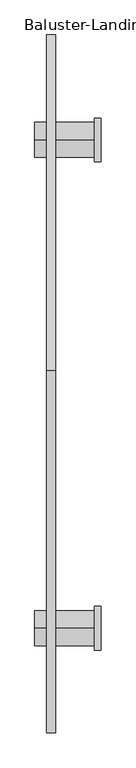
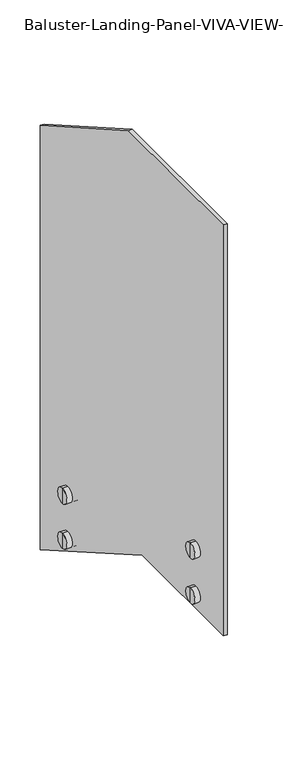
"""IFC4 building model written with IfcOpenShell, lengths in millimetres: railing geometry, Baluster-Landing-Panel-VIVA-VIEW-Lower : Standard_Glass Plate."""

from ifc_helpers import new_model, si_unit, point, frame, frame_2d, origin, place, context, project, spatial, polyline, circle_curve, trimmed, segment, composite_curve, outline, extrude, source, transform, mapped, element, save
from ifc_brep_helpers import plane_surface, cylinder_surface, advanced_brep


def baluster_landing_panel_viva_view_lower_standard_glass_plate_48608524(model_context):
    return source(origin(), model_context, "Body", "SolidModel", [
        advanced_brep(
        [(15.875, -147.3891207, -546.0690625), (15.875, -147.3891207, -520.6690625), (15.875, -147.3891207, -495.2690625), (33.3375, -147.3891207, -546.0690625), (33.3375, -147.3891207, -495.2690625), (33.3375, -147.3891207, -526.3840625), (33.3375, -147.3891207, -514.9540625), (46.0375, -147.3891207, -526.3840625), (46.0375, -147.3891207, -514.9540625), (46.0375, -147.3891207, -546.0690625), (46.0375, -147.3891207, -495.2690625), (103.187353, -147.3891207, -546.0690625), (103.187353, -147.3891207, -495.2690625), (103.187353, -147.3891207, -520.6690625)],
        [
            (0, 1),
            (1, 2),
            (2, 0, circle_curve(frame((15.875, -147.3891207, -520.6690625), z_axis=(-1.0, 0.0, 0.0), x_axis=(0.0, 0.0, 1.0)), 25.4)),
            (0, 2, circle_curve(frame((15.875, -147.3891207, -520.6690625), z_axis=(-1.0, 0.0, 0.0), x_axis=(0.0, 0.0, 1.0)), 25.4)),
            (3, 0),
            (2, 4),
            (4, 3, circle_curve(frame((33.3375, -147.3891207, -520.6690625), z_axis=(-1.0, 0.0, 0.0), x_axis=(0.0, 0.0, 1.0)), 25.4)),
            (3, 4, circle_curve(frame((33.3375, -147.3891207, -520.6690625), z_axis=(-1.0, 0.0, 0.0), x_axis=(0.0, 0.0, 1.0)), 25.4)),
            (5, 3),
            (4, 6),
            (6, 5, circle_curve(frame((33.3375, -147.3891207, -520.6690625), z_axis=(-1.0, 0.0, 0.0), x_axis=(0.0, 0.0, 1.0)), 5.715)),
            (5, 6, circle_curve(frame((33.3375, -147.3891207, -520.6690625), z_axis=(-1.0, 0.0, 0.0), x_axis=(0.0, 0.0, 1.0)), 5.715)),
            (7, 5),
            (6, 8),
            (8, 7, circle_curve(frame((46.0375, -147.3891207, -520.6690625), z_axis=(-1.0, 0.0, 0.0), x_axis=(0.0, 0.0, 1.0)), 5.715)),
            (7, 8, circle_curve(frame((46.0375, -147.3891207, -520.6690625), z_axis=(-1.0, 0.0, 0.0), x_axis=(0.0, 0.0, 1.0)), 5.715)),
            (9, 7),
            (8, 10),
            (10, 9, circle_curve(frame((46.0375, -147.3891207, -520.6690625), z_axis=(-1.0, 0.0, 0.0), x_axis=(0.0, 0.0, 1.0)), 25.4)),
            (9, 10, circle_curve(frame((46.0375, -147.3891207, -520.6690625), z_axis=(-1.0, 0.0, 0.0), x_axis=(0.0, 0.0, 1.0)), 25.4)),
            (11, 9),
            (10, 12),
            (12, 11, circle_curve(frame((103.187353, -147.3891207, -520.6690625), z_axis=(-1.0, 0.0, 0.0), x_axis=(0.0, 0.0, 1.0)), 25.4)),
            (11, 12, circle_curve(frame((103.187353, -147.3891207, -520.6690625), z_axis=(-1.0, 0.0, 0.0), x_axis=(0.0, 0.0, 1.0)), 25.4)),
            (13, 11),
            (12, 13),
        ],
        [
            plane_surface(frame((15.875, -147.3891207, -520.6690625), z_axis=(-1.0, 0.0, 0.0), x_axis=(0.0, 0.0, 1.0))),
            cylinder_surface(frame((-52.387647, -147.3891207, -520.6690625), z_axis=(1.0, 0.0, 0.0), x_axis=(0.0, 0.0, 1.0)), 25.4),
            plane_surface(frame((33.3375, -147.3891207, -520.6690625), z_axis=(1.0, 0.0, 0.0), x_axis=(0.0, 0.0, 1.0))),
            cylinder_surface(frame((-52.387647, -147.3891207, -520.6690625), z_axis=(1.0, 0.0, 0.0), x_axis=(0.0, 0.0, 1.0)), 5.715),
            plane_surface(frame((46.0375, -147.3891207, -520.6690625), z_axis=(-1.0, 0.0, 0.0), x_axis=(0.0, 0.0, 1.0))),
            plane_surface(frame((103.187353, -147.3891207, -520.6690625), z_axis=(1.0, 0.0, 0.0), x_axis=(0.0, 0.0, 1.0))),
        ],
        [
            (0, [[1, 2, 3]]),
            (0, [[-2, -1, 4]]),
            (1, [[5, -3, 6, 7]]),
            (1, [[-6, -4, -5, 8]]),
            (2, [[9, -7, 10, 11]]),
            (2, [[-10, -8, -9, 12]]),
            (3, [[13, -11, 14, 15]]),
            (3, [[-14, -12, -13, 16]]),
            (4, [[17, -15, 18, 19]]),
            (4, [[-18, -16, -17, 20]]),
            (1, [[21, -19, 22, 23]]),
            (1, [[-22, -20, -21, 24]]),
            (5, [[25, -23, 26]]),
            (5, [[-26, -24, -25]]),
        ],
    ),
        advanced_brep(
        [(33.3375, -147.3891207, -373.9840625), (33.3375, -147.3891207, -393.6690625), (33.3375, -147.3891207, -342.8690625), (33.3375, -147.3891207, -362.5540625), (46.0375, -147.3891207, -373.9840625), (46.0375, -147.3891207, -362.5540625), (46.0375, -147.3891207, -393.6690625), (46.0375, -147.3891207, -342.8690625), (103.187353, -147.3891207, -393.6690625), (103.187353, -147.3891207, -342.8690625), (103.187353, -147.3891207, -368.2690625), (15.875, -147.3891207, -393.6690625), (15.875, -147.3891207, -368.2690625), (15.875, -147.3891207, -342.8690625)],
        [
            (0, 1),
            (1, 2, circle_curve(frame((33.3375, -147.3891207, -368.2690625), z_axis=(1.0, 0.0, 0.0), x_axis=(0.0, 0.0, 1.0)), 25.4)),
            (2, 3),
            (3, 0, circle_curve(frame((33.3375, -147.3891207, -368.2690625), z_axis=(-1.0, 0.0, 0.0), x_axis=(0.0, 0.0, 1.0)), 5.715)),
            (2, 1, circle_curve(frame((33.3375, -147.3891207, -368.2690625), z_axis=(1.0, 0.0, 0.0), x_axis=(0.0, 0.0, 1.0)), 25.4)),
            (0, 3, circle_curve(frame((33.3375, -147.3891207, -368.2690625), z_axis=(-1.0, 0.0, 0.0), x_axis=(0.0, 0.0, 1.0)), 5.715)),
            (4, 0),
            (3, 5),
            (5, 4, circle_curve(frame((46.0375, -147.3891207, -368.2690625), z_axis=(-1.0, 0.0, 0.0), x_axis=(0.0, 0.0, 1.0)), 5.715)),
            (4, 5, circle_curve(frame((46.0375, -147.3891207, -368.2690625), z_axis=(-1.0, 0.0, 0.0), x_axis=(0.0, 0.0, 1.0)), 5.715)),
            (6, 4),
            (5, 7),
            (7, 6, circle_curve(frame((46.0375, -147.3891207, -368.2690625), z_axis=(-1.0, 0.0, 0.0), x_axis=(0.0, 0.0, 1.0)), 25.4)),
            (6, 7, circle_curve(frame((46.0375, -147.3891207, -368.2690625), z_axis=(-1.0, 0.0, 0.0), x_axis=(0.0, 0.0, 1.0)), 25.4)),
            (8, 6),
            (7, 9),
            (9, 8, circle_curve(frame((103.187353, -147.3891207, -368.2690625), z_axis=(-1.0, 0.0, 0.0), x_axis=(0.0, 0.0, 1.0)), 25.4)),
            (8, 9, circle_curve(frame((103.187353, -147.3891207, -368.2690625), z_axis=(-1.0, 0.0, 0.0), x_axis=(0.0, 0.0, 1.0)), 25.4)),
            (10, 8),
            (9, 10),
            (11, 12),
            (12, 13),
            (13, 11, circle_curve(frame((15.875, -147.3891207, -368.2690625), z_axis=(-1.0, 0.0, 0.0), x_axis=(0.0, 0.0, 1.0)), 25.4)),
            (11, 13, circle_curve(frame((15.875, -147.3891207, -368.2690625), z_axis=(-1.0, 0.0, 0.0), x_axis=(0.0, 0.0, 1.0)), 25.4)),
            (1, 11),
            (13, 2),
        ],
        [
            plane_surface(frame((33.3375, -147.3891207, -368.2690625), z_axis=(1.0, 0.0, 0.0), x_axis=(0.0, 0.0, 1.0))),
            cylinder_surface(frame((-52.387647, -147.3891207, -368.2690625), z_axis=(1.0, 0.0, 0.0), x_axis=(0.0, 0.0, 1.0)), 5.715),
            plane_surface(frame((46.0375, -147.3891207, -368.2690625), z_axis=(-1.0, 0.0, 0.0), x_axis=(0.0, 0.0, 1.0))),
            cylinder_surface(frame((-52.387647, -147.3891207, -368.2690625), z_axis=(1.0, 0.0, 0.0), x_axis=(0.0, 0.0, 1.0)), 25.4),
            plane_surface(frame((103.187353, -147.3891207, -368.2690625), z_axis=(1.0, 0.0, 0.0), x_axis=(0.0, 0.0, 1.0))),
            plane_surface(frame((15.875, -147.3891207, -368.2690625), z_axis=(-1.0, 0.0, 0.0), x_axis=(0.0, 0.0, 1.0))),
        ],
        [
            (0, [[1, 2, 3, 4]]),
            (0, [[-3, 5, -1, 6]]),
            (1, [[7, -4, 8, 9]]),
            (1, [[-8, -6, -7, 10]]),
            (2, [[11, -9, 12, 13]]),
            (2, [[-12, -10, -11, 14]]),
            (3, [[15, -13, 16, 17]]),
            (3, [[-16, -14, -15, 18]]),
            (4, [[19, -17, 20]]),
            (4, [[-20, -18, -19]]),
            (5, [[21, 22, 23]]),
            (5, [[-22, -21, 24]]),
            (3, [[25, -23, 26, -2]]),
            (3, [[-26, -24, -25, -5]]),
        ],
    ),
        extrude(outline(composite_curve([segment(trimmed(circle_curve(frame_2d((-147.3891207, -368.2690625)), 31.75), [point((-179.1391207, -368.2690625))], [point((-115.6391207, -368.2690625))], False, "CARTESIAN"), True, "CONTINUOUS"), segment(polyline([(-115.6391207, -368.2690625), (-115.6391207, -520.6690625)]), True, "CONTINUOUS"), segment(trimmed(circle_curve(frame_2d((-147.3891207, -520.6690625)), 31.75), [point((-115.6391207, -520.6690625))], [point((-179.1391207, -520.6690625))], False, "CARTESIAN"), True, "CONTINUOUS"), segment(polyline([(-179.1391207, -520.6690625), (-179.1391207, -368.2690625)]), True, "CONTINUOUS")], self_intersect=False)), frame((103.187353, 0.0, 0.0), z_axis=(1.0, 0.0, 0.0), x_axis=(0.0, 1.0, 0.0)), (0.0, 0.0, 1.0), 9.525),
        advanced_brep(
        [(15.875, -858.1688714, -300.2438244), (15.875, -858.1688714, -249.4438244), (15.875, -858.1688714, -274.8438244), (33.3375, -858.1688714, -300.2438244), (33.3375, -858.1688714, -249.4438244), (33.3375, -858.1688714, -280.5588244), (33.3375, -858.1688714, -269.1288244), (46.0375, -858.1688714, -280.5588244), (46.0375, -858.1688714, -269.1288244), (46.0375, -858.1688714, -300.2438244), (46.0375, -858.1688714, -249.4438244), (103.187353, -858.1688714, -300.2438244), (103.187353, -858.1688714, -249.4438244), (103.187353, -858.1688714, -274.8438244)],
        [
            (0, 1, circle_curve(frame((15.875, -858.1688714, -274.8438244), z_axis=(-1.0, 0.0, 0.0), x_axis=(0.0, 0.0, 1.0)), 25.4)),
            (1, 2),
            (2, 0),
            (1, 0, circle_curve(frame((15.875, -858.1688714, -274.8438244), z_axis=(-1.0, 0.0, 0.0), x_axis=(0.0, 0.0, 1.0)), 25.4)),
            (3, 4, circle_curve(frame((33.3375, -858.1688714, -274.8438244), z_axis=(-1.0, 0.0, 0.0), x_axis=(0.0, 0.0, 1.0)), 25.4)),
            (4, 1),
            (0, 3),
            (4, 3, circle_curve(frame((33.3375, -858.1688714, -274.8438244), z_axis=(-1.0, 0.0, 0.0), x_axis=(0.0, 0.0, 1.0)), 25.4)),
            (5, 6, circle_curve(frame((33.3375, -858.1688714, -274.8438244), z_axis=(-1.0, 0.0, 0.0), x_axis=(0.0, 0.0, 1.0)), 5.715)),
            (6, 4),
            (3, 5),
            (6, 5, circle_curve(frame((33.3375, -858.1688714, -274.8438244), z_axis=(-1.0, 0.0, 0.0), x_axis=(0.0, 0.0, 1.0)), 5.715)),
            (7, 8, circle_curve(frame((46.0375, -858.1688714, -274.8438244), z_axis=(-1.0, 0.0, 0.0), x_axis=(0.0, 0.0, 1.0)), 5.715)),
            (8, 6),
            (5, 7),
            (8, 7, circle_curve(frame((46.0375, -858.1688714, -274.8438244), z_axis=(-1.0, 0.0, 0.0), x_axis=(0.0, 0.0, 1.0)), 5.715)),
            (9, 10, circle_curve(frame((46.0375, -858.1688714, -274.8438244), z_axis=(-1.0, 0.0, 0.0), x_axis=(0.0, 0.0, 1.0)), 25.4)),
            (10, 8),
            (7, 9),
            (10, 9, circle_curve(frame((46.0375, -858.1688714, -274.8438244), z_axis=(-1.0, 0.0, 0.0), x_axis=(0.0, 0.0, 1.0)), 25.4)),
            (11, 12, circle_curve(frame((103.187353, -858.1688714, -274.8438244), z_axis=(-1.0, 0.0, 0.0), x_axis=(0.0, 0.0, 1.0)), 25.4)),
            (12, 10),
            (9, 11),
            (12, 11, circle_curve(frame((103.187353, -858.1688714, -274.8438244), z_axis=(-1.0, 0.0, 0.0), x_axis=(0.0, 0.0, 1.0)), 25.4)),
            (13, 12),
            (11, 13),
        ],
        [
            plane_surface(frame((15.875, -858.1688714, -274.8438244), z_axis=(-1.0, 0.0, 0.0), x_axis=(0.0, 0.0, 1.0))),
            cylinder_surface(frame((-52.387647, -858.1688714, -274.8438244), z_axis=(1.0, 0.0, 0.0), x_axis=(0.0, 0.0, 1.0)), 25.4),
            plane_surface(frame((33.3375, -858.1688714, -274.8438244), z_axis=(1.0, 0.0, 0.0), x_axis=(0.0, 0.0, 1.0))),
            cylinder_surface(frame((-52.387647, -858.1688714, -274.8438244), z_axis=(1.0, 0.0, 0.0), x_axis=(0.0, 0.0, 1.0)), 5.715),
            plane_surface(frame((46.0375, -858.1688714, -274.8438244), z_axis=(-1.0, 0.0, 0.0), x_axis=(0.0, 0.0, 1.0))),
            plane_surface(frame((103.187353, -858.1688714, -274.8438244), z_axis=(1.0, 0.0, 0.0), x_axis=(0.0, 0.0, 1.0))),
        ],
        [
            (0, [[1, 2, 3]]),
            (0, [[4, -3, -2]]),
            (1, [[5, 6, -1, 7]]),
            (1, [[8, -7, -4, -6]]),
            (2, [[9, 10, -5, 11]]),
            (2, [[12, -11, -8, -10]]),
            (3, [[13, 14, -9, 15]]),
            (3, [[16, -15, -12, -14]]),
            (4, [[17, 18, -13, 19]]),
            (4, [[20, -19, -16, -18]]),
            (1, [[21, 22, -17, 23]]),
            (1, [[24, -23, -20, -22]]),
            (5, [[25, -21, 26]]),
            (5, [[-26, -24, -25]]),
        ],
    ),
        advanced_brep(
        [(33.3375, -858.1688714, -128.1588244), (33.3375, -858.1688714, -116.7288244), (33.3375, -858.1688714, -97.0438244), (33.3375, -858.1688714, -147.8438244), (46.0375, -858.1688714, -128.1588244), (46.0375, -858.1688714, -116.7288244), (46.0375, -858.1688714, -147.8438244), (46.0375, -858.1688714, -97.0438244), (103.187353, -858.1688714, -147.8438244), (103.187353, -858.1688714, -97.0438244), (103.187353, -858.1688714, -122.4438244), (15.875, -858.1688714, -147.8438244), (15.875, -858.1688714, -97.0438244), (15.875, -858.1688714, -122.4438244)],
        [
            (0, 1, circle_curve(frame((33.3375, -858.1688714, -122.4438244), z_axis=(-1.0, 0.0, 0.0), x_axis=(0.0, 0.0, 1.0)), 5.715)),
            (1, 2),
            (2, 3, circle_curve(frame((33.3375, -858.1688714, -122.4438244), z_axis=(1.0, 0.0, 0.0), x_axis=(0.0, 0.0, 1.0)), 25.4)),
            (3, 0),
            (1, 0, circle_curve(frame((33.3375, -858.1688714, -122.4438244), z_axis=(-1.0, 0.0, 0.0), x_axis=(0.0, 0.0, 1.0)), 5.715)),
            (3, 2, circle_curve(frame((33.3375, -858.1688714, -122.4438244), z_axis=(1.0, 0.0, 0.0), x_axis=(0.0, 0.0, 1.0)), 25.4)),
            (4, 5, circle_curve(frame((46.0375, -858.1688714, -122.4438244), z_axis=(-1.0, 0.0, 0.0), x_axis=(0.0, 0.0, 1.0)), 5.715)),
            (5, 1),
            (0, 4),
            (5, 4, circle_curve(frame((46.0375, -858.1688714, -122.4438244), z_axis=(-1.0, 0.0, 0.0), x_axis=(0.0, 0.0, 1.0)), 5.715)),
            (6, 7, circle_curve(frame((46.0375, -858.1688714, -122.4438244), z_axis=(-1.0, 0.0, 0.0), x_axis=(0.0, 0.0, 1.0)), 25.4)),
            (7, 5),
            (4, 6),
            (7, 6, circle_curve(frame((46.0375, -858.1688714, -122.4438244), z_axis=(-1.0, 0.0, 0.0), x_axis=(0.0, 0.0, 1.0)), 25.4)),
            (8, 9, circle_curve(frame((103.187353, -858.1688714, -122.4438244), z_axis=(-1.0, 0.0, 0.0), x_axis=(0.0, 0.0, 1.0)), 25.4)),
            (9, 7),
            (6, 8),
            (9, 8, circle_curve(frame((103.187353, -858.1688714, -122.4438244), z_axis=(-1.0, 0.0, 0.0), x_axis=(0.0, 0.0, 1.0)), 25.4)),
            (10, 9),
            (8, 10),
            (11, 12, circle_curve(frame((15.875, -858.1688714, -122.4438244), z_axis=(-1.0, 0.0, 0.0), x_axis=(0.0, 0.0, 1.0)), 25.4)),
            (12, 13),
            (13, 11),
            (12, 11, circle_curve(frame((15.875, -858.1688714, -122.4438244), z_axis=(-1.0, 0.0, 0.0), x_axis=(0.0, 0.0, 1.0)), 25.4)),
            (2, 12),
            (11, 3),
        ],
        [
            plane_surface(frame((33.3375, -858.1688714, -122.4438244), z_axis=(1.0, 0.0, 0.0), x_axis=(0.0, 0.0, 1.0))),
            cylinder_surface(frame((-52.387647, -858.1688714, -122.4438244), z_axis=(1.0, 0.0, 0.0), x_axis=(0.0, 0.0, 1.0)), 5.715),
            plane_surface(frame((46.0375, -858.1688714, -122.4438244), z_axis=(-1.0, 0.0, 0.0), x_axis=(0.0, 0.0, 1.0))),
            cylinder_surface(frame((-52.387647, -858.1688714, -122.4438244), z_axis=(1.0, 0.0, 0.0), x_axis=(0.0, 0.0, 1.0)), 25.4),
            plane_surface(frame((103.187353, -858.1688714, -122.4438244), z_axis=(1.0, 0.0, 0.0), x_axis=(0.0, 0.0, 1.0))),
            plane_surface(frame((15.875, -858.1688714, -122.4438244), z_axis=(-1.0, 0.0, 0.0), x_axis=(0.0, 0.0, 1.0))),
        ],
        [
            (0, [[1, 2, 3, 4]]),
            (0, [[5, -4, 6, -2]]),
            (1, [[7, 8, -1, 9]]),
            (1, [[10, -9, -5, -8]]),
            (2, [[11, 12, -7, 13]]),
            (2, [[14, -13, -10, -12]]),
            (3, [[15, 16, -11, 17]]),
            (3, [[18, -17, -14, -16]]),
            (4, [[19, -15, 20]]),
            (4, [[-20, -18, -19]]),
            (5, [[21, 22, 23]]),
            (5, [[24, -23, -22]]),
            (3, [[-3, 25, -21, 26]]),
            (3, [[-6, -26, -24, -25]]),
        ],
    ),
        extrude(outline(composite_curve([segment(polyline([(-826.4188714, -122.4438244), (-826.4188714, -274.8438244)]), True, "CONTINUOUS"), segment(trimmed(circle_curve(frame_2d((-858.1688714, -274.8438244)), 31.75), [point((-826.4188714, -274.8438244))], [point((-889.9188714, -274.8438244))], False, "CARTESIAN"), True, "CONTINUOUS"), segment(polyline([(-889.9188714, -274.8438244), (-889.9188714, -122.4438244)]), True, "CONTINUOUS"), segment(trimmed(circle_curve(frame_2d((-858.1688714, -122.4438244)), 31.75), [point((-889.9188714, -122.4438244))], [point((-826.4188714, -122.4438244))], False, "CARTESIAN"), True, "CONTINUOUS")], self_intersect=False)), frame((103.187353, 0.0, 0.0), z_axis=(1.0, 0.0, 0.0), x_axis=(0.0, 1.0, 0.0)), (0.0, 0.0, 1.0), 9.525),
        extrude(outline(polyline([(-483.5416293, 1066.8), (5.0108793, 787.6823482), (5.0108793, -649.0537444), (-561.0684305, -325.6438244), (-1010.5688714, -325.6438244), (-1010.5688714, 1066.8), (-483.5416293, 1066.8)])), frame((33.3375, 0.0, 0.0), z_axis=(1.0, 0.0, 0.0), x_axis=(0.0, 1.0, 0.0)), (0.0, 0.0, 1.0), 12.7),
    ])


if __name__ == "__main__":
    model = new_model("IFC4")
    model_context = context("Model", 3, world=origin())
    ifc_project = project(units=[si_unit("LENGTHUNIT", "METRE", prefix="MILLI")], contexts=[model_context])
    site = spatial("IfcSite", under=ifc_project)
    building = spatial("IfcBuilding", under=site)
    placement = place(None, origin())
    baluster_landing_panel_viva_view_lower_standard_glass_plate_shape = baluster_landing_panel_viva_view_lower_standard_glass_plate_48608524(model_context)
    element("IfcRailing", 1, ObjectType="Baluster-Landing-Panel-VIVA-VIEW-Lower : Standard_Glass Plate", at=placement, inside=building, context=model_context, shape_type="MappedRepresentation", body=[
        mapped(baluster_landing_panel_viva_view_lower_standard_glass_plate_shape, transform((0.0, 0.0, 0.0), x_axis=(1.0, 0.0, 0.0), y_axis=(0.0, 1.0, 0.0), z_axis=(0.0, 0.0, 1.0))),
    ])
    save(model, "model.ifc")
